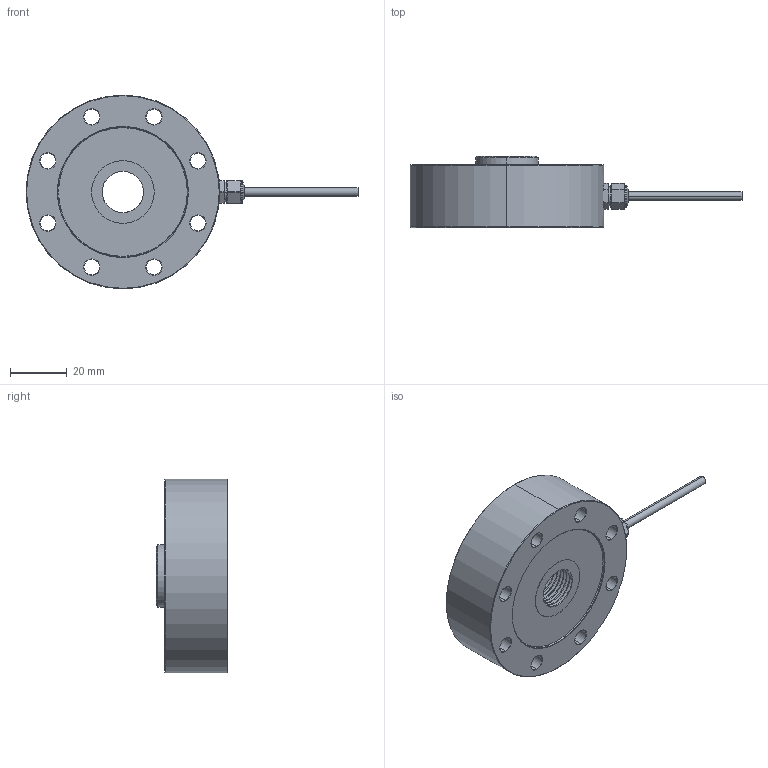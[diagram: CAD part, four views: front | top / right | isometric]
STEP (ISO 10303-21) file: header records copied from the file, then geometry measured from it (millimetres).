
FILE_DESCRIPTION (( 'STEP AP203' ), '1' );
FILE_NAME ('LCP09.STEP', '2024-07-16T02:56:06', ( '' ), ( '' ), 'SwSTEP 2.0', 'SolidWorks 2019', '' );
FILE_SCHEMA (( 'CONFIG_CONTROL_DESIGN' ));
Length unit declared in the file: millimetre
Products named in the file (1): LCP09
Bounding box: 116.5 x 25 x 68 mm (x, y, z)
Volume: 69613.1 mm3; surface area: 17588.1 mm2
Topology: 1 solids, 1 shells, 189 faces, 455 edges, 285 vertices
Faces by surface type: cylinder 95, cone 51, plane 32, torus 8, bspline 3
Entity records: 8557 total; most frequent: CARTESIAN_POINT 4130, DIRECTION 934, ORIENTED_EDGE 910, EDGE_CURVE 455, AXIS2_PLACEMENT_3D 384, VERTEX_POINT 285, EDGE_LOOP 224, CIRCLE 197
